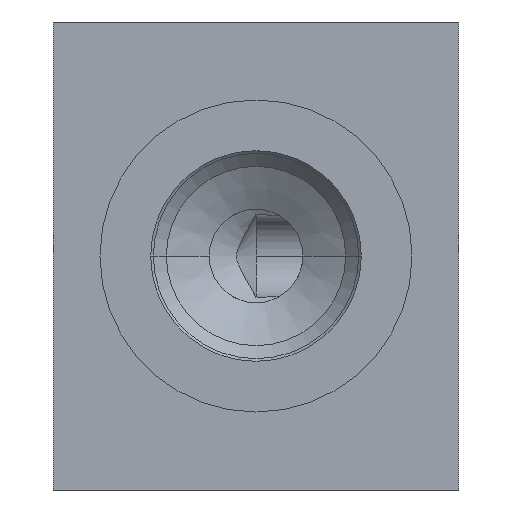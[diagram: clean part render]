
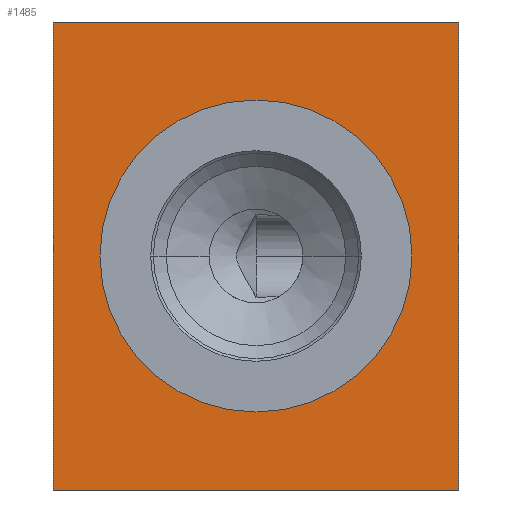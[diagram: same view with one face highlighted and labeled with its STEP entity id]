
A CAD part, left-side view. The second image highlights one B-rep face of the part: STEP entity #1485.
In plain terms, the highlighted planar face has unit normal (-1, 0, 0).
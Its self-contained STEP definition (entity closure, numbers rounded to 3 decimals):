
#40=DIRECTION('',(0.,-1.,0.));
#41=VECTOR('',#40,26.);
#42=CARTESIAN_POINT('',(0.,26.,0.));
#43=LINE('',#42,#41);
#47=DIRECTION('',(0.,0.,1.));
#48=VECTOR('',#47,30.);
#49=CARTESIAN_POINT('',(0.,0.,0.));
#50=LINE('',#49,#48);
#150=DIRECTION('',(0.,0.,1.));
#151=VECTOR('',#150,30.);
#152=CARTESIAN_POINT('',(0.,26.,0.));
#153=LINE('',#152,#151);
#157=CARTESIAN_POINT('',(0.,13.,15.));
#158=DIRECTION('',(1.,0.,0.));
#159=DIRECTION('',(0.,-1.,0.));
#160=AXIS2_PLACEMENT_3D('',#157,#158,#159);
#165=CARTESIAN_POINT('',(0.,13.,15.));
#166=DIRECTION('',(1.,0.,0.));
#167=DIRECTION('',(0.,1.,0.));
#168=AXIS2_PLACEMENT_3D('',#165,#166,#167);
#274=DIRECTION('',(0.,-1.,0.));
#275=VECTOR('',#274,26.);
#276=CARTESIAN_POINT('',(0.,26.,30.));
#277=LINE('',#276,#275);
#1221=CARTESIAN_POINT('',(0.,0.,0.));
#1223=VERTEX_POINT('',#1221);
#1227=CARTESIAN_POINT('',(0.,26.,0.));
#1228=VERTEX_POINT('',#1227);
#1229=CARTESIAN_POINT('',(0.,0.,30.));
#1231=VERTEX_POINT('',#1229);
#1235=CARTESIAN_POINT('',(0.,26.,30.));
#1236=VERTEX_POINT('',#1235);
#1321=CARTESIAN_POINT('',(0.,3.,15.));
#1322=VERTEX_POINT('',#1321);
#1323=CARTESIAN_POINT('',(0.,23.,15.));
#1324=VERTEX_POINT('',#1323);
#1466=CARTESIAN_POINT('',(0.,26.,0.));
#1467=DIRECTION('',(-1.,0.,0.));
#1468=DIRECTION('',(0.,-1.,0.));
#1469=AXIS2_PLACEMENT_3D('',#1466,#1467,#1468);
#1470=PLANE('',#1469);
#1471=ORIENTED_EDGE('',*,*,#1386,.F.);
#1473=ORIENTED_EDGE('',*,*,#1472,.T.);
#1475=ORIENTED_EDGE('',*,*,#1474,.T.);
#1476=ORIENTED_EDGE('',*,*,#1409,.F.);
#1477=EDGE_LOOP('',(#1471,#1473,#1475,#1476));
#1478=FACE_OUTER_BOUND('',#1477,.F.);
#1480=ORIENTED_EDGE('',*,*,#1479,.F.);
#1482=ORIENTED_EDGE('',*,*,#1481,.F.);
#1483=EDGE_LOOP('',(#1480,#1482));
#1484=FACE_BOUND('',#1483,.F.);
#161=CIRCLE('',#160,10.);
#169=CIRCLE('',#168,10.);
#1386=EDGE_CURVE('',#1228,#1223,#43,.T.);
#1409=EDGE_CURVE('',#1223,#1231,#50,.T.);
#1472=EDGE_CURVE('',#1228,#1236,#153,.T.);
#1474=EDGE_CURVE('',#1236,#1231,#277,.T.);
#1479=EDGE_CURVE('',#1322,#1324,#161,.T.);
#1481=EDGE_CURVE('',#1324,#1322,#169,.T.);
#1485=ADVANCED_FACE('',(#1478,#1484),#1470,.T.);
